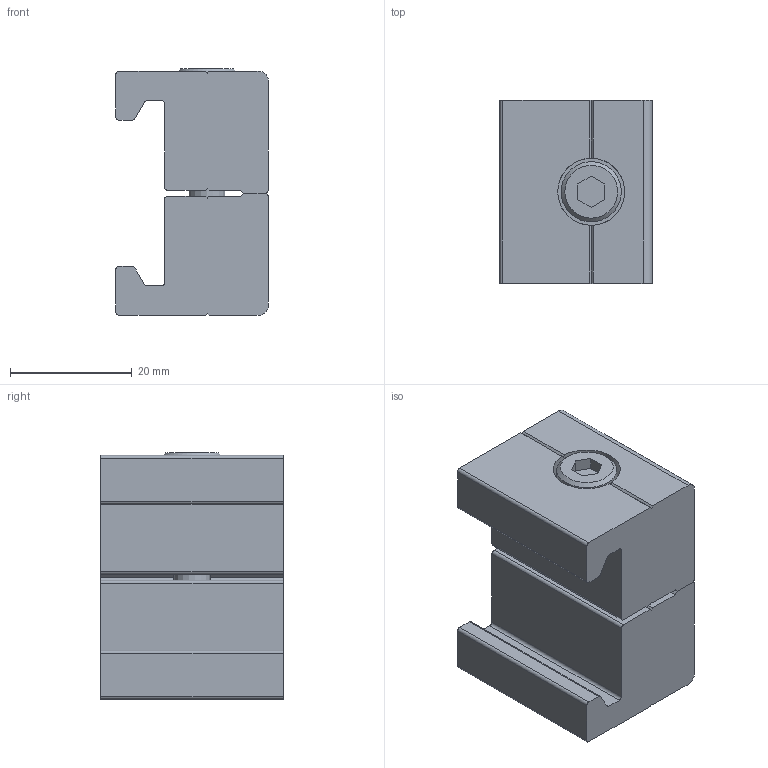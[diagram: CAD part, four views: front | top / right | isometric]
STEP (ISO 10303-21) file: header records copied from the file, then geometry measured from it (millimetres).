
FILE_DESCRIPTION(('STEP AP214'),'1');
FILE_NAME('SL4S-L30.stp','2017-07-27T09:23:07',(' '),(' '),'Spatial InterOp 3D',' ',' ');
FILE_SCHEMA(('automotive_design'));
Length unit declared in the file: millimetre
Products named in the file (4): SL4S-L30; SL4H-L30; SL4T-L30; ねじ: 穴付き - M6.0 x 30.0
Assembly tree (3 placements, depth 2):
  SL4S-L30
    SL4H-L30
    SL4T-L30
    ねじ: 穴付き - M6.0 x 30.0
Bounding box: 25 x 30 x 40.42 mm (x, y, z)
Volume: 22736.9 mm3; surface area: 8777.1 mm2
Topology: 3 solids, 3 shells, 78 faces, 213 edges, 140 vertices
Faces by surface type: plane 55, cylinder 21, cone 2
Full cylindrical faces by diameter (mm): 6 x2, 6.6 x1, 9.87 x1, 11 x1
Entity records: 3155 total; most frequent: DIRECTION 434, CARTESIAN_POINT 428, ORIENTED_EDGE 412, EDGE_CURVE 206, AXIS2_PLACEMENT_3D 146, LINE 142, VECTOR 142, VERTEX_POINT 140
